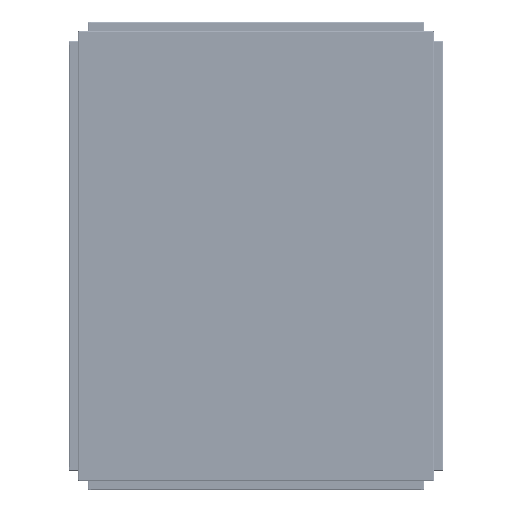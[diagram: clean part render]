
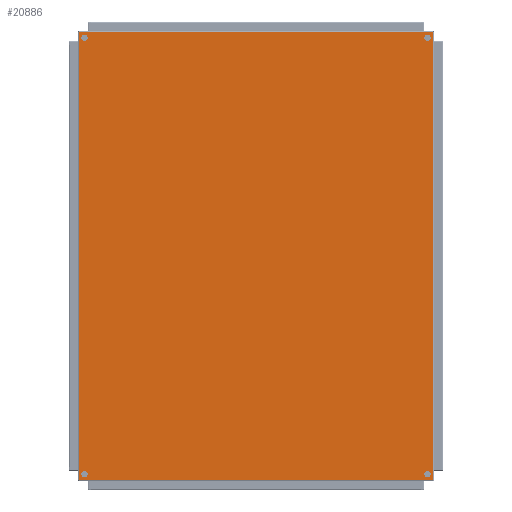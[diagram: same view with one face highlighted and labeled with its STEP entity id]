
A CAD part, left-side view. The second image highlights one B-rep face of the part: STEP entity #20886.
In plain terms, the highlighted planar face has unit normal (-1, 0, 0) as drawn and (0, 0, -1) by its records, which use the part's own axes.
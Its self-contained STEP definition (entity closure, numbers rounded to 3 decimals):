
#149 = DIRECTION ( 'NONE',  ( 0., 0., -1. ) ) ;
#1346 = VERTEX_POINT ( 'NONE', #83542 ) ;
#2610 = ORIENTED_EDGE ( 'NONE', *, *, #34021, .F. ) ;
#3738 = DIRECTION ( 'NONE',  ( -1., 0., 0. ) ) ;
#4713 = ORIENTED_EDGE ( 'NONE', *, *, #58555, .F. ) ;
#6544 = CARTESIAN_POINT ( 'NONE',  ( -466.42, -366.42, -1.5 ) ) ;
#6772 = VERTEX_POINT ( 'NONE', #12947 ) ;
#7601 = ORIENTED_EDGE ( 'NONE', *, *, #25480, .F. ) ;
#7880 = CIRCLE ( 'NONE', #43412, 6.75 ) ;
#8807 = FACE_BOUND ( 'NONE', #58185, .T. ) ;
#9055 = VERTEX_POINT ( 'NONE', #53263 ) ;
#10648 = CARTESIAN_POINT ( 'NONE',  ( 466.42, -366.42, -1.5 ) ) ;
#10909 = DIRECTION ( 'NONE',  ( 1., 0., 0. ) ) ;
#11346 = ORIENTED_EDGE ( 'NONE', *, *, #13825, .F. ) ;
#11366 = LINE ( 'NONE', #69012, #84044 ) ;
#11931 = CARTESIAN_POINT ( 'NONE',  ( 466.42, 366.42, -1.5 ) ) ;
#12947 = CARTESIAN_POINT ( 'NONE',  ( 479., 379., -1.5 ) ) ;
#13040 = LINE ( 'NONE', #53572, #80655 ) ;
#13310 = VERTEX_POINT ( 'NONE', #68823 ) ;
#13800 = CARTESIAN_POINT ( 'NONE',  ( -473.17, 366.42, -1.5 ) ) ;
#13825 = EDGE_CURVE ( 'NONE', #1346, #29695, #53467, .T. ) ;
#14367 = AXIS2_PLACEMENT_3D ( 'NONE', #17684, #83779, #76668 ) ;
#15074 = DIRECTION ( 'NONE',  ( 1., 0., 0. ) ) ;
#16396 = ORIENTED_EDGE ( 'NONE', *, *, #57696, .F. ) ;
#16727 = AXIS2_PLACEMENT_3D ( 'NONE', #6544, #64931, #38843 ) ;
#17534 = VERTEX_POINT ( 'NONE', #47453 ) ;
#17684 = CARTESIAN_POINT ( 'NONE',  ( 0., 0., -1.5 ) ) ;
#17990 = CARTESIAN_POINT ( 'NONE',  ( 479., -379., -1.5 ) ) ;
#18774 = AXIS2_PLACEMENT_3D ( 'NONE', #20134, #149, #72496 ) ;
#18811 = DIRECTION ( 'NONE',  ( 1., 0., 0. ) ) ;
#20134 = CARTESIAN_POINT ( 'NONE',  ( -466.42, -366.42, -1.5 ) ) ;
#20192 = EDGE_CURVE ( 'NONE', #39720, #53757, #7880, .T. ) ;
#20852 = VERTEX_POINT ( 'NONE', #17990 ) ;
#20886 = ADVANCED_FACE ( 'NONE', ( #51811, #33364, #74364, #8807, #37436 ), #44827, .F. ) ;
#22163 = AXIS2_PLACEMENT_3D ( 'NONE', #30727, #31030, #76562 ) ;
#22170 = CIRCLE ( 'NONE', #53909, 6.75 ) ;
#22888 = EDGE_CURVE ( 'NONE', #53757, #39720, #76687, .T. ) ;
#24476 = DIRECTION ( 'NONE',  ( 0., 1., 0. ) ) ;
#24682 = EDGE_LOOP ( 'NONE', ( #51846, #11346 ) ) ;
#25123 = DIRECTION ( 'NONE',  ( 0., 0., -1. ) ) ;
#25480 = EDGE_CURVE ( 'NONE', #6772, #13310, #74187, .T. ) ;
#25730 = CARTESIAN_POINT ( 'NONE',  ( -479., 379., -1.5 ) ) ;
#26057 = VECTOR ( 'NONE', #77271, 1000. ) ;
#27400 = EDGE_CURVE ( 'NONE', #9055, #79781, #75861, .T. ) ;
#27547 = DIRECTION ( 'NONE',  ( 0., -1., 0. ) ) ;
#29277 = EDGE_CURVE ( 'NONE', #79781, #9055, #44852, .T. ) ;
#29358 = CARTESIAN_POINT ( 'NONE',  ( -466.42, 366.42, -1.5 ) ) ;
#29639 = ORIENTED_EDGE ( 'NONE', *, *, #59298, .F. ) ;
#29695 = VERTEX_POINT ( 'NONE', #45964 ) ;
#30400 = DIRECTION ( 'NONE',  ( 0., 0., -1. ) ) ;
#30727 = CARTESIAN_POINT ( 'NONE',  ( -466.42, 366.42, -1.5 ) ) ;
#31030 = DIRECTION ( 'NONE',  ( 0., 0., -1. ) ) ;
#31982 = EDGE_LOOP ( 'NONE', ( #29639, #4713 ) ) ;
#33364 = FACE_BOUND ( 'NONE', #31982, .T. ) ;
#34021 = EDGE_CURVE ( 'NONE', #35180, #20852, #11366, .T. ) ;
#34975 = AXIS2_PLACEMENT_3D ( 'NONE', #39684, #49478, #3738 ) ;
#35180 = VERTEX_POINT ( 'NONE', #64302 ) ;
#37000 = EDGE_CURVE ( 'NONE', #29695, #1346, #66198, .T. ) ;
#37436 = FACE_OUTER_BOUND ( 'NONE', #67154, .T. ) ;
#38843 = DIRECTION ( 'NONE',  ( 1., 0., 0. ) ) ;
#39684 = CARTESIAN_POINT ( 'NONE',  ( 466.42, -366.42, -1.5 ) ) ;
#39720 = VERTEX_POINT ( 'NONE', #13800 ) ;
#41311 = CARTESIAN_POINT ( 'NONE',  ( 459.67, 366.42, -1.5 ) ) ;
#43017 = AXIS2_PLACEMENT_3D ( 'NONE', #10648, #30400, #68487 ) ;
#43205 = ORIENTED_EDGE ( 'NONE', *, *, #20192, .F. ) ;
#43412 = AXIS2_PLACEMENT_3D ( 'NONE', #29358, #74348, #55121 ) ;
#44051 = ORIENTED_EDGE ( 'NONE', *, *, #27400, .F. ) ;
#44827 = PLANE ( 'NONE',  #14367 ) ;
#44852 = CIRCLE ( 'NONE', #34975, 6.75 ) ;
#45964 = CARTESIAN_POINT ( 'NONE',  ( -473.17, -366.42, -1.5 ) ) ;
#47453 = CARTESIAN_POINT ( 'NONE',  ( 473.17, 366.42, -1.5 ) ) ;
#49478 = DIRECTION ( 'NONE',  ( 0., 0., -1. ) ) ;
#51733 = ORIENTED_EDGE ( 'NONE', *, *, #79122, .F. ) ;
#51811 = FACE_BOUND ( 'NONE', #24682, .T. ) ;
#51846 = ORIENTED_EDGE ( 'NONE', *, *, #37000, .F. ) ;
#53263 = CARTESIAN_POINT ( 'NONE',  ( 473.17, -366.42, -1.5 ) ) ;
#53467 = CIRCLE ( 'NONE', #16727, 6.75 ) ;
#53572 = CARTESIAN_POINT ( 'NONE',  ( -479., 379., -1.5 ) ) ;
#53757 = VERTEX_POINT ( 'NONE', #61547 ) ;
#53909 = AXIS2_PLACEMENT_3D ( 'NONE', #67721, #55104, #15074 ) ;
#55104 = DIRECTION ( 'NONE',  ( 0., 0., -1. ) ) ;
#55121 = DIRECTION ( 'NONE',  ( -1., 0., 0. ) ) ;
#55672 = VECTOR ( 'NONE', #24476, 1000. ) ;
#56712 = ORIENTED_EDGE ( 'NONE', *, *, #29277, .F. ) ;
#57696 = EDGE_CURVE ( 'NONE', #13310, #35180, #13040, .T. ) ;
#58185 = EDGE_LOOP ( 'NONE', ( #43205, #63043 ) ) ;
#58555 = EDGE_CURVE ( 'NONE', #17534, #62947, #22170, .T. ) ;
#59298 = EDGE_CURVE ( 'NONE', #62947, #17534, #81358, .T. ) ;
#61547 = CARTESIAN_POINT ( 'NONE',  ( -459.67, 366.42, -1.5 ) ) ;
#62947 = VERTEX_POINT ( 'NONE', #41311 ) ;
#63043 = ORIENTED_EDGE ( 'NONE', *, *, #22888, .F. ) ;
#64302 = CARTESIAN_POINT ( 'NONE',  ( -479., -379., -1.5 ) ) ;
#64931 = DIRECTION ( 'NONE',  ( 0., 0., -1. ) ) ;
#66198 = CIRCLE ( 'NONE', #18774, 6.75 ) ;
#67154 = EDGE_LOOP ( 'NONE', ( #16396, #7601, #51733, #2610 ) ) ;
#67721 = CARTESIAN_POINT ( 'NONE',  ( 466.42, 366.42, -1.5 ) ) ;
#68487 = DIRECTION ( 'NONE',  ( -1., 0., 0. ) ) ;
#68823 = CARTESIAN_POINT ( 'NONE',  ( -479., 379., -1.5 ) ) ;
#69012 = CARTESIAN_POINT ( 'NONE',  ( -479., -379., -1.5 ) ) ;
#70686 = CARTESIAN_POINT ( 'NONE',  ( 459.67, -366.42, -1.5 ) ) ;
#72496 = DIRECTION ( 'NONE',  ( 1., 0., 0. ) ) ;
#73102 = LINE ( 'NONE', #84241, #55672 ) ;
#74187 = LINE ( 'NONE', #25730, #26057 ) ;
#74348 = DIRECTION ( 'NONE',  ( 0., 0., -1. ) ) ;
#74364 = FACE_BOUND ( 'NONE', #78080, .T. ) ;
#75861 = CIRCLE ( 'NONE', #43017, 6.75 ) ;
#76562 = DIRECTION ( 'NONE',  ( -1., 0., 0. ) ) ;
#76668 = DIRECTION ( 'NONE',  ( 1., 0., 0. ) ) ;
#76687 = CIRCLE ( 'NONE', #22163, 6.75 ) ;
#77271 = DIRECTION ( 'NONE',  ( -1., 0., 0. ) ) ;
#78080 = EDGE_LOOP ( 'NONE', ( #56712, #44051 ) ) ;
#79107 = AXIS2_PLACEMENT_3D ( 'NONE', #11931, #25123, #18811 ) ;
#79122 = EDGE_CURVE ( 'NONE', #20852, #6772, #73102, .T. ) ;
#79781 = VERTEX_POINT ( 'NONE', #70686 ) ;
#80655 = VECTOR ( 'NONE', #27547, 1000. ) ;
#81358 = CIRCLE ( 'NONE', #79107, 6.75 ) ;
#83542 = CARTESIAN_POINT ( 'NONE',  ( -459.67, -366.42, -1.5 ) ) ;
#83779 = DIRECTION ( 'NONE',  ( 0., 0., 1. ) ) ;
#84044 = VECTOR ( 'NONE', #10909, 1000. ) ;
#84241 = CARTESIAN_POINT ( 'NONE',  ( 479., 379., -1.5 ) ) ;
